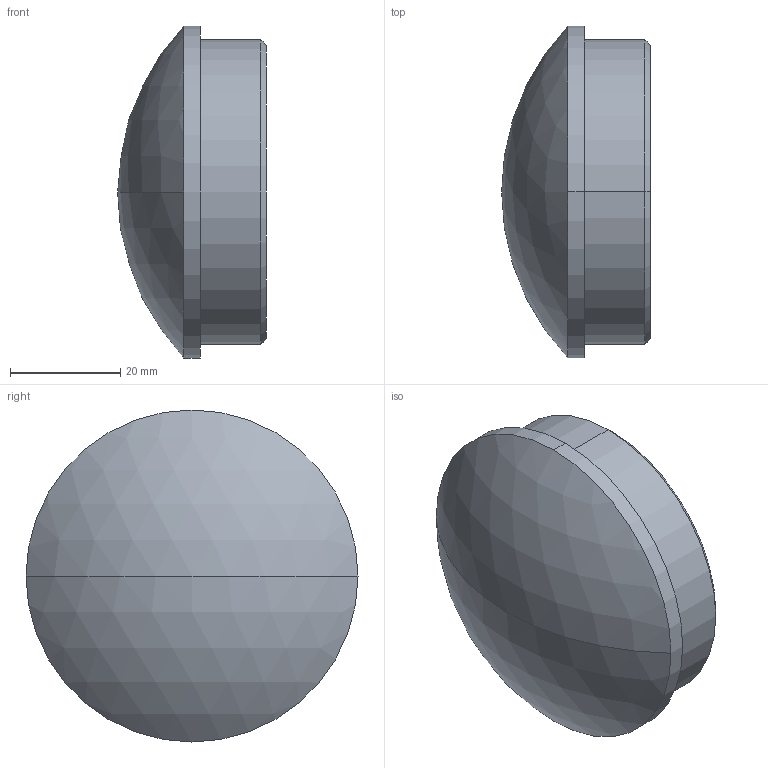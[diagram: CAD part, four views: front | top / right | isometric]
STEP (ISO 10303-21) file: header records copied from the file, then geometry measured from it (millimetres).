
FILE_DESCRIPTION (( 'STEP AP203' ), '1' );
FILE_NAME ('3D_GR1392_DN60.3x2.5_18380281.STEP', '2024-09-21T10:27:17', ( '' ), ( '' ), 'SwSTEP 2.0', 'SolidWorks 2024', '' );
FILE_SCHEMA (( 'CONFIG_CONTROL_DESIGN' ));
Length unit declared in the file: millimetre
Products named in the file (1): 3D_GR1392_DN60.3x2.5_18380281
Bounding box: 27 x 60.3 x 60.3 mm (x, y, z)
Volume: 55342.8 mm3; surface area: 8714 mm2
Topology: 1 solids, 1 shells, 10 faces, 20 edges, 13 vertices
Faces by surface type: cylinder 4, cone 2, sphere 2, plane 2
Entity records: 347 total; most frequent: DIRECTION 56, CARTESIAN_POINT 44, ORIENTED_EDGE 40, AXIS2_PLACEMENT_3D 25, EDGE_CURVE 20, CIRCLE 14, VERTEX_POINT 13, EDGE_LOOP 11
